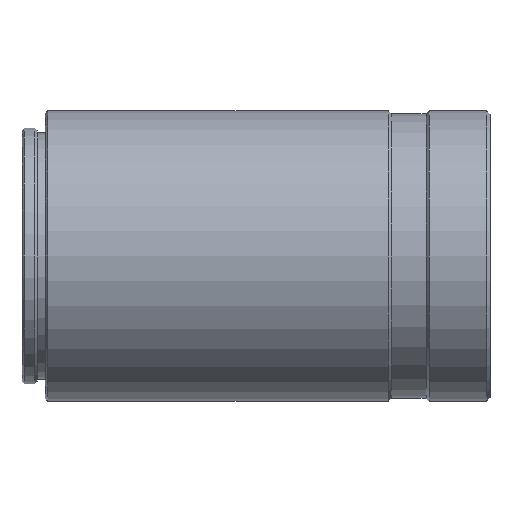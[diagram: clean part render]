
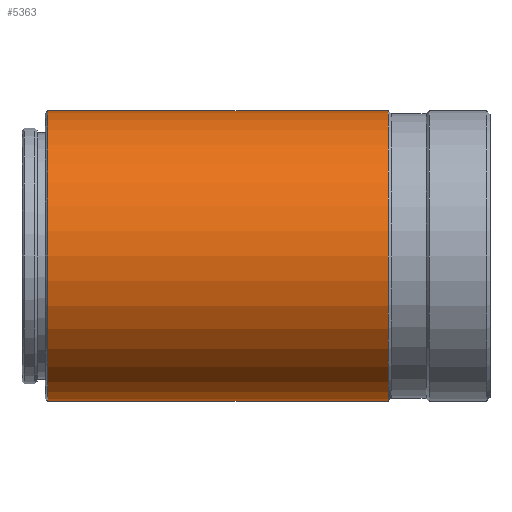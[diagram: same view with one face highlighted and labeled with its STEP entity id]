
A CAD part, left-side view. The second image highlights one B-rep face of the part: STEP entity #5363.
In plain terms, the highlighted cylindrical face has radius 12.5 mm (diameter 25 mm), a partial arc.
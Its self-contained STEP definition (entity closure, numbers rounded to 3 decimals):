
#212 = DIRECTION ( 'NONE',  ( 0., -1., 0. ) ) ;
#1131 = ORIENTED_EDGE ( 'NONE', *, *, #3118, .T. ) ;
#1238 = CARTESIAN_POINT ( 'NONE',  ( 0., -25.689, 12.5 ) ) ;
#1497 = ORIENTED_EDGE ( 'NONE', *, *, #4581, .F. ) ;
#1766 = VERTEX_POINT ( 'NONE', #5818 ) ;
#1865 = ORIENTED_EDGE ( 'NONE', *, *, #5863, .T. ) ;
#2489 = LINE ( 'NONE', #2527, #2585 ) ;
#2527 = CARTESIAN_POINT ( 'NONE',  ( 0., 5.852, -12.5 ) ) ;
#2585 = VECTOR ( 'NONE', #7414, 1000. ) ;
#2669 = LINE ( 'NONE', #4100, #7311 ) ;
#2758 = CIRCLE ( 'NONE', #3727, 12.5 ) ;
#3091 = CYLINDRICAL_SURFACE ( 'NONE', #7461, 12.5 ) ;
#3118 = EDGE_CURVE ( 'NONE', #1766, #7857, #2489, .T. ) ;
#3417 = EDGE_CURVE ( 'NONE', #4893, #7857, #2758, .T. ) ;
#3727 = AXIS2_PLACEMENT_3D ( 'NONE', #5436, #6079, #4822 ) ;
#3914 = AXIS2_PLACEMENT_3D ( 'NONE', #4089, #7765, #4620 ) ;
#4025 = DIRECTION ( 'NONE',  ( 0., -1., 0. ) ) ;
#4065 = CARTESIAN_POINT ( 'NONE',  ( 0., -25.689, -12.5 ) ) ;
#4089 = CARTESIAN_POINT ( 'NONE',  ( 0., 3.652, 0. ) ) ;
#4100 = CARTESIAN_POINT ( 'NONE',  ( 0., 5.852, 12.5 ) ) ;
#4200 = VERTEX_POINT ( 'NONE', #6863 ) ;
#4581 = EDGE_CURVE ( 'NONE', #4200, #4893, #2669, .T. ) ;
#4620 = DIRECTION ( 'NONE',  ( 0., 0., 1. ) ) ;
#4822 = DIRECTION ( 'NONE',  ( 0., 0., -1. ) ) ;
#4893 = VERTEX_POINT ( 'NONE', #1238 ) ;
#4975 = DIRECTION ( 'NONE',  ( 0., 0., -1. ) ) ;
#5363 = ADVANCED_FACE ( 'NONE', ( #5523 ), #3091, .T. ) ;
#5436 = CARTESIAN_POINT ( 'NONE',  ( 0., -25.689, 0. ) ) ;
#5450 = EDGE_LOOP ( 'NONE', ( #1497, #1865, #1131, #6977 ) ) ;
#5523 = FACE_OUTER_BOUND ( 'NONE', #5450, .T. ) ;
#5818 = CARTESIAN_POINT ( 'NONE',  ( 0., 3.652, -12.5 ) ) ;
#5863 = EDGE_CURVE ( 'NONE', #4200, #1766, #7320, .T. ) ;
#6079 = DIRECTION ( 'NONE',  ( 0., -1., 0. ) ) ;
#6257 = CARTESIAN_POINT ( 'NONE',  ( 0., 5.852, 0. ) ) ;
#6863 = CARTESIAN_POINT ( 'NONE',  ( 0., 3.652, 12.5 ) ) ;
#6977 = ORIENTED_EDGE ( 'NONE', *, *, #3417, .F. ) ;
#7311 = VECTOR ( 'NONE', #4025, 1000. ) ;
#7320 = CIRCLE ( 'NONE', #3914, 12.5 ) ;
#7414 = DIRECTION ( 'NONE',  ( 0., -1., 0. ) ) ;
#7461 = AXIS2_PLACEMENT_3D ( 'NONE', #6257, #212, #4975 ) ;
#7765 = DIRECTION ( 'NONE',  ( 0., -1., 0. ) ) ;
#7857 = VERTEX_POINT ( 'NONE', #4065 ) ;
